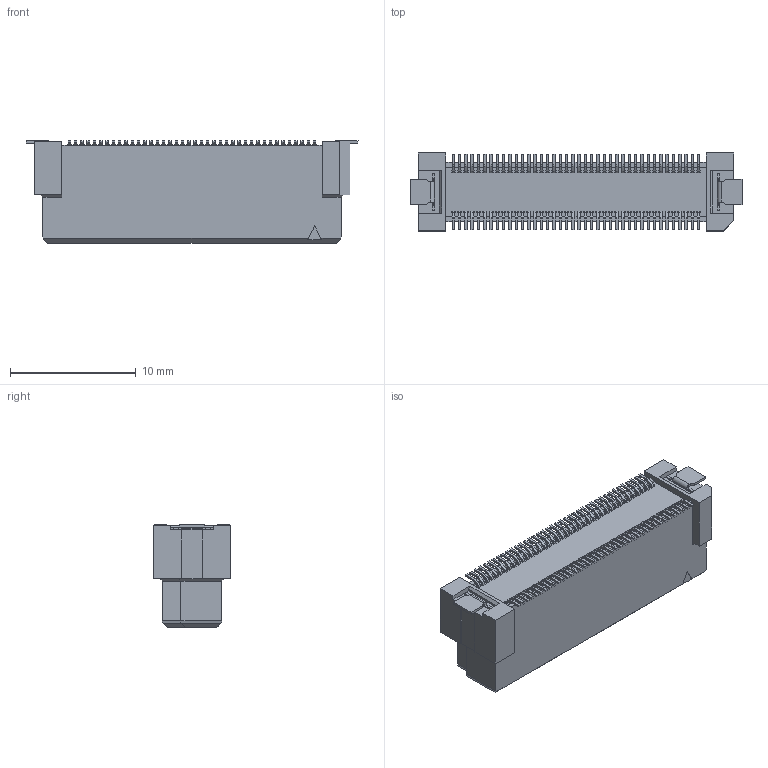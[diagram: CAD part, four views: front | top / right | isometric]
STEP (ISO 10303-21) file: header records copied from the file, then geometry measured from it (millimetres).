
FILE_DESCRIPTION(('Creo Elements/Direct Modeling STEP Export'),'2;1');
FILE_NAME('DT10-080S-10-T.stp','2017-08-11T10:09:15',(''),(''),'Creo Elements/Direct Modeling STEP processor for AP214 (Solid Model)','Creo Elements/Direct Modeling 19.0F 14-Feb-2017 (C) Parametric Technology GmbH','');
FILE_SCHEMA(('AUTOMOTIVE_DESIGN { 1 0 10303 214 1 1 1 1 }'));
Products named in the file (2): DT10-080S-10-T
Assembly tree (1 placements, depth 2):
  DT10-080S-10-T
    DT10-080S-10-T
Bounding box: 26.4 x 6.2 x 8.18 mm (x, y, z)
Volume: 808.2 mm3; surface area: 1392.1 mm2
Topology: 1 solids, 1 shells, 2851 faces, 8079 edges, 5393 vertices
Faces by surface type: plane 2439, cylinder 412
Entity records: 90526 total; most frequent: ORIENTED_EDGE 16158, CARTESIAN_POINT 16098, DIRECTION 14466, EDGE_CURVE 8079, VECTOR 6944, LINE 6944, VERTEX_POINT 5393, AXIS2_PLACEMENT_3D 3761
